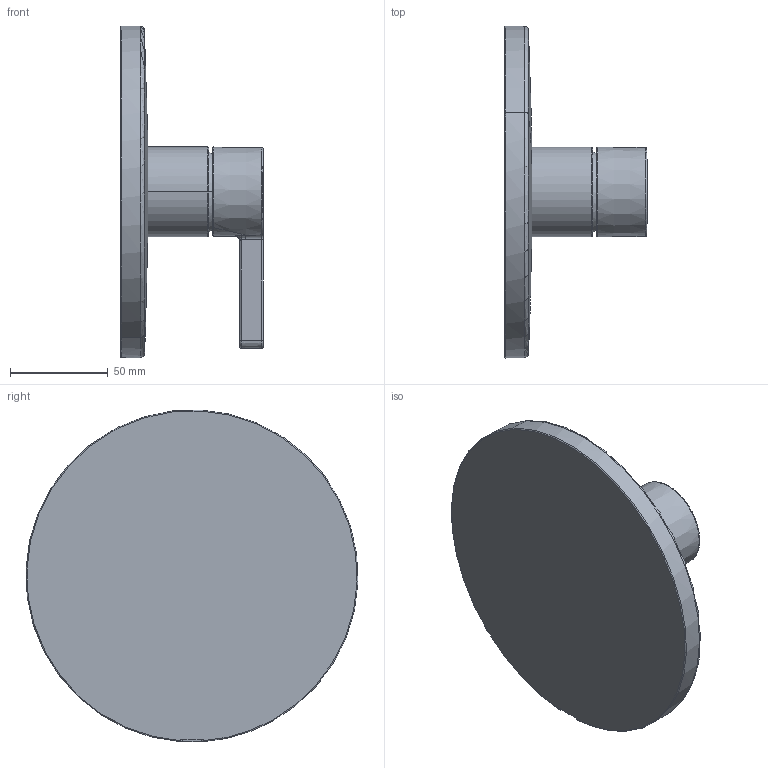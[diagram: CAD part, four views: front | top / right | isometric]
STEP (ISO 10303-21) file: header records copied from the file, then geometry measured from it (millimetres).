
FILE_DESCRIPTION((''),'2;1');
FILE_NAME('21424500','2018-10-09T',('DB991'),(''),'CREO PARAMETRIC BY PTC INC, 2016260','CREO PARAMETRIC BY PTC INC, 2016260','');
FILE_SCHEMA(('CONFIG_CONTROL_DESIGN'));
Length unit declared in the file: millimetre
Products named in the file (1): 21424500
Bounding box: 73 x 169.87 x 169.8 mm (x, y, z)
Volume: 395604.8 mm3; surface area: 63897.9 mm2
Topology: 1 solids, 1 shells, 96 faces, 260 edges, 167 vertices
Faces by surface type: plane 42, cylinder 17, torus 12, bspline 12, cone 9, sphere 4
Entity records: 4117 total; most frequent: CARTESIAN_POINT 1778, ORIENTED_EDGE 514, DIRECTION 441, EDGE_CURVE 257, VERTEX_POINT 167, AXIS2_PLACEMENT_3D 164, VECTOR 113, LINE 113
